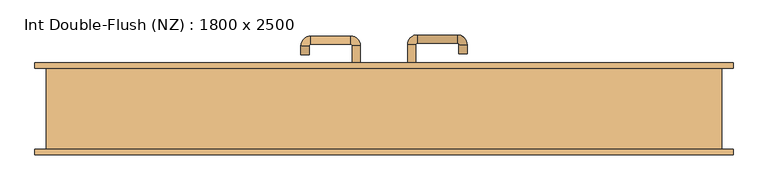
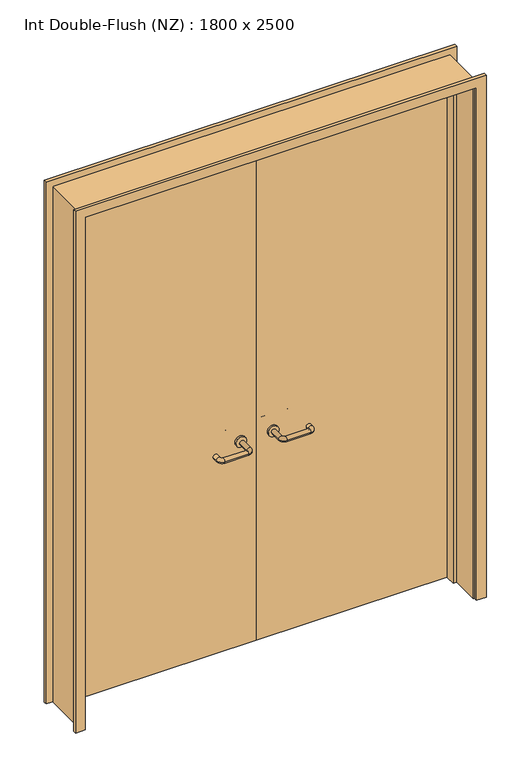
"""IFC4 building model written with IfcOpenShell, lengths in millimetres: door geometry, Int Double-Flush (NZ) : 1800 x 2500."""

from ifc_helpers import new_model, si_unit, point, frame, frame_2d, origin, place, context, project, spatial, polyline, circle_curve, ellipse_curve, trimmed, segment, composite_curve, outline, extrude, faceted_brep, source, transform, mapped, element, save
from ifc_brep_helpers import plane_surface, cylinder_surface, revolved_surface, advanced_brep


def int_double_flush_nz_1800_x_2500_136b044d(model_context):
    return source(origin(), model_context, "Body", "SolidModel", [
        extrude(outline(polyline([(2519.0, -919.0), (0.0, -919.0), (0.0, -900.0), (2500.0, -900.0), (2500.0, 900.0), (0.0, 900.0), (0.0, 919.0), (2519.0, 919.0), (2519.0, -919.0)])), frame((0.0, -110.0, 0.0), z_axis=(0.0, 1.0, 0.0), x_axis=(0.0, 0.0, 1.0)), (0.0, 0.0, 1.0), 220.0),
        faceted_brep([(-883.2857143, 69.0, 0.0), (-883.2857143, 24.0, 0.0), (-900.0, 24.0, 0.0), (-900.0, 69.0, 0.0), (-883.2857143, 69.0, 2483.2857143), (-883.2857143, 24.0, 2483.2857143), (-900.0, 24.0, 2500.0), (-900.0, 69.0, 2500.0), (883.2857143, 69.0, 0.0), (900.0, 69.0, 0.0), (900.0, 24.0, 0.0), (883.2857143, 24.0, 0.0), (883.2857143, 69.0, 2483.2857143), (900.0, 69.0, 2500.0), (900.0, 24.0, 2500.0), (883.2857143, 24.0, 2483.2857143)], [[[0, 1, 2, 3]], [[1, 0, 4, 5]], [[2, 1, 5, 6]], [[3, 2, 6, 7]], [[0, 3, 7, 4]], [[8, 9, 10, 11]], [[12, 13, 9, 8]], [[13, 14, 10, 9]], [[14, 15, 11, 10]], [[15, 12, 8, 11]], [[5, 4, 12, 15]], [[6, 5, 15, 14]], [[7, 6, 14, 13]], [[4, 7, 13, 12]]]),
        extrude(outline(polyline([(2550.0, 950.0), (2550.0, -950.0), (0.0, -950.0), (0.0, -905.0), (2505.0, -905.0), (2505.0, 905.0), (0.0, 905.0), (0.0, 950.0), (2550.0, 950.0)])), frame((0.0, 110.0, 0.0), z_axis=(0.0, 1.0, 0.0), x_axis=(0.0, 0.0, 1.0)), (0.0, 0.0, 1.0), 15.0),
        extrude(outline(polyline([(2550.0, -950.0), (0.0, -950.0), (0.0, -905.0), (2505.0, -905.0), (2505.0, 905.0), (0.0, 905.0), (0.0, 950.0), (2550.0, 950.0), (2550.0, -950.0)])), frame((0.0, -125.0, 0.0), z_axis=(0.0, 1.0, 0.0), x_axis=(0.0, 0.0, 1.0)), (0.0, 0.0, 1.0), 15.0),
        extrude(outline(polyline([(-0.9250294, 72.0), (-897.0, 72.0), (-897.0, 110.0), (-0.9250294, 110.0), (-0.9250294, 72.0)])), frame((0.0, 0.0, 1.753223), z_axis=(0.0, 0.0, 1.0), x_axis=(1.0, 0.0, 0.0)), (0.0, 0.0, 1.0), 2495.246777),
        extrude(outline(polyline([(897.0, 72.0), (-0.9250294, 72.0), (-0.9250294, 110.0), (897.0, 110.0), (897.0, 72.0)])), frame((0.0, 0.0, 1.753223), z_axis=(0.0, 0.0, 1.0), x_axis=(1.0, 0.0, 0.0)), (0.0, 0.0, 1.0), 2495.246777),
        extrude(outline(polyline([(2519.0, -919.0), (0.0, -919.0), (0.0, -900.0), (2500.0, -900.0), (2500.0, 900.0), (0.0, 900.0), (0.0, 919.0), (2519.0, 919.0), (2519.0, -919.0)])), frame((0.0, -110.0, 0.0), z_axis=(0.0, 1.0, 0.0), x_axis=(0.0, 0.0, 1.0)), (0.0, 0.0, 1.0), 220.0),
        advanced_brep(
        [(64.0, 62.0, 1003.0), (86.0, 62.0, 1003.0), (64.0, 6.6474631, 1003.0), (86.0, 6.6474631, 1003.0), (90.0, 2.6474631, 1003.0), (90.0, -19.3525369, 1003.0), (200.0, -19.3525369, 1003.0), (200.0, 2.6474631, 1003.0), (204.0, 6.6474631, 1003.0), (226.0, 6.6474631, 1003.0), (226.0, 24.0, 1003.0), (204.0, 24.0, 1003.0)],
        [
            (0, 1, circle_curve(frame((75.0, 62.0, 1003.0), z_axis=(0.0, 1.0, 0.0), x_axis=(1.0, 0.0, 0.0)), 11.0)),
            (1, 0, circle_curve(frame((75.0, 62.0, 1003.0), z_axis=(0.0, 1.0, 0.0), x_axis=(1.0, 0.0, 0.0)), 11.0)),
            (0, 2),
            (2, 3, circle_curve(frame((75.0, 6.6474631, 1003.0), z_axis=(0.0, 1.0, 0.0), x_axis=(1.0, 0.0, 0.0)), 11.0)),
            (3, 1),
            (3, 2, circle_curve(frame((75.0, 6.6474631, 1003.0), z_axis=(0.0, 1.0, 0.0), x_axis=(1.0, 0.0, 0.0)), 11.0)),
            (4, 3, circle_curve(frame((90.0, 6.6474631, 1003.0), z_axis=(0.0, 0.0, -1.0), x_axis=(-1.0, 0.0, 0.0)), 4.0)),
            (2, 5, circle_curve(frame((90.0, 6.6474631, 1003.0), z_axis=(0.0, 0.0, 1.0), x_axis=(-1.0, 0.0, 0.0)), 26.0)),
            (5, 4, circle_curve(frame((90.0, -8.3525369, 1003.0), z_axis=(-1.0, 0.0, 0.0), x_axis=(0.0, 1.0, 0.0)), 11.0)),
            (4, 5, circle_curve(frame((90.0, -8.3525369, 1003.0), z_axis=(-1.0, 0.0, 0.0), x_axis=(0.0, 1.0, 0.0)), 11.0)),
            (5, 6),
            (6, 7, circle_curve(frame((200.0, -8.3525369, 1003.0), z_axis=(-1.0, 0.0, 0.0), x_axis=(0.0, 1.0, 0.0)), 11.0)),
            (7, 4),
            (7, 6, circle_curve(frame((200.0, -8.3525369, 1003.0), z_axis=(-1.0, 0.0, 0.0), x_axis=(0.0, 1.0, 0.0)), 11.0)),
            (8, 7, circle_curve(frame((200.0, 6.6474631, 1003.0), z_axis=(0.0, 0.0, -1.0), x_axis=(0.0, -1.0, 0.0)), 4.0)),
            (6, 9, circle_curve(frame((200.0, 6.6474631, 1003.0), z_axis=(0.0, 0.0, 1.0), x_axis=(0.0, -1.0, 0.0)), 26.0)),
            (9, 8, circle_curve(frame((215.0, 6.6474631, 1003.0), z_axis=(0.0, -1.0, 0.0), x_axis=(-1.0, 0.0, 0.0)), 11.0)),
            (8, 9, circle_curve(frame((215.0, 6.6474631, 1003.0), z_axis=(0.0, -1.0, 0.0), x_axis=(-1.0, 0.0, 0.0)), 11.0)),
            (10, 11, circle_curve(frame((215.0, 24.0, 1003.0), z_axis=(0.0, 1.0, 0.0), x_axis=(-1.0, 0.0, 0.0)), 11.0)),
            (11, 10, circle_curve(frame((215.0, 24.0, 1003.0), z_axis=(0.0, 1.0, 0.0), x_axis=(-1.0, 0.0, 0.0)), 11.0)),
            (9, 10),
            (11, 8),
        ],
        [
            plane_surface(frame((64.0, 62.0, 1003.0), z_axis=(0.0, 1.0, 0.0), x_axis=(0.0, 0.0, -1.0))),
            cylinder_surface(frame((75.0, 62.0, 1003.0), z_axis=(0.0, 1.0, 0.0), x_axis=(1.0, 0.0, 0.0)), 11.0),
            revolved_surface(trimmed(ellipse_curve(frame((75.0, 6.6474631, 1003.0), z_axis=(0.0, 1.0, 0.0), x_axis=(1.0, 0.0, 0.0)), 11.0, 11.0), [point((64.0, 6.6474631, 1003.0))], [point((86.0, 6.6474631, 1003.0))], True, "CARTESIAN"), (90.0, 6.6474631, 1003.0), (0.0, 0.0, 1.0)),
            revolved_surface(trimmed(ellipse_curve(frame((75.0, 6.6474631, 1003.0), z_axis=(0.0, 1.0, 0.0), x_axis=(1.0, 0.0, 0.0)), 11.0, 11.0), [point((86.0, 6.6474631, 1003.0))], [point((64.0, 6.6474631, 1003.0))], True, "CARTESIAN"), (90.0, 6.6474631, 1003.0), (0.0, 0.0, 1.0)),
            cylinder_surface(frame((90.0, -8.3525369, 1003.0), z_axis=(-1.0, 0.0, 0.0), x_axis=(0.0, 1.0, 0.0)), 11.0),
            revolved_surface(trimmed(ellipse_curve(frame((200.0, -8.3525369, 1003.0), z_axis=(-1.0, 0.0, 0.0), x_axis=(0.0, 1.0, 0.0)), 11.0, 11.0), [point((200.0, -19.3525369, 1003.0))], [point((200.0, 2.6474631, 1003.0))], True, "CARTESIAN"), (200.0, 6.6474631, 1003.0), (0.0, 0.0, 1.0)),
            revolved_surface(trimmed(ellipse_curve(frame((200.0, -8.3525369, 1003.0), z_axis=(-1.0, 0.0, 0.0), x_axis=(0.0, 1.0, 0.0)), 11.0, 11.0), [point((200.0, 2.6474631, 1003.0))], [point((200.0, -19.3525369, 1003.0))], True, "CARTESIAN"), (200.0, 6.6474631, 1003.0), (0.0, 0.0, 1.0)),
            plane_surface(frame((204.0, 24.0, 1003.0), z_axis=(0.0, 1.0, 0.0), x_axis=(0.0, 0.0, 1.0))),
            cylinder_surface(frame((215.0, 6.6474631, 1003.0), z_axis=(0.0, -1.0, 0.0), x_axis=(-1.0, 0.0, 0.0)), 11.0),
        ],
        [
            (0, [[1, 2]]),
            (1, [[-1, 3, 4, 5]]),
            (1, [[-2, -5, 6, -3]]),
            (2, [[7, -4, 8, 9]]),
            (3, [[-8, -6, -7, 10]]),
            (4, [[-9, 11, 12, 13]]),
            (4, [[-10, -13, 14, -11]]),
            (5, [[15, -12, 16, 17]]),
            (6, [[-16, -14, -15, 18]]),
            (7, [[19, 20]]),
            (8, [[-17, 21, -20, 22]]),
            (8, [[-18, -22, -19, -21]]),
        ],
    ),
        extrude(outline(composite_curve([segment(trimmed(circle_curve(frame_2d((1003.0, 75.0)), 25.0), [point((1003.0, 50.0))], [point((1003.0, 100.0))], False, "CARTESIAN"), True, "CONTINUOUS"), segment(trimmed(circle_curve(frame_2d((1003.0, 75.0)), 25.0), [point((1003.0, 100.0))], [point((1003.0, 50.0))], False, "CARTESIAN"), True, "CONTINUOUS")], self_intersect=False)), frame((0.0, 62.0, 0.0), z_axis=(0.0, 1.0, 0.0), x_axis=(0.0, 0.0, 1.0)), (0.0, 0.0, 1.0), 10.0),
        advanced_brep(
        [(86.0, 120.0, 1003.0), (64.0, 120.0, 1003.0), (86.0, 175.0, 1003.0), (64.0, 175.0, 1003.0), (90.0, 201.0, 1003.0), (90.0, 179.0, 1003.0), (200.0, 179.0, 1003.0), (200.0, 201.0, 1003.0), (226.0, 175.0, 1003.0), (204.0, 175.0, 1003.0), (204.0, 150.0, 1003.0), (226.0, 150.0, 1003.0)],
        [
            (0, 1, circle_curve(frame((75.0, 120.0, 1003.0), z_axis=(0.0, -1.0, 0.0), x_axis=(-1.0, 0.0, 0.0)), 11.0)),
            (1, 0, circle_curve(frame((75.0, 120.0, 1003.0), z_axis=(0.0, -1.0, 0.0), x_axis=(-1.0, 0.0, 0.0)), 11.0)),
            (0, 2),
            (2, 3, circle_curve(frame((75.0, 175.0, 1003.0), z_axis=(0.0, -1.0, 0.0), x_axis=(-1.0, 0.0, 0.0)), 11.0)),
            (3, 1),
            (3, 2, circle_curve(frame((75.0, 175.0, 1003.0), z_axis=(0.0, -1.0, 0.0), x_axis=(-1.0, 0.0, 0.0)), 11.0)),
            (4, 3, circle_curve(frame((90.0, 175.0, 1003.0), z_axis=(0.0, 0.0, 1.0), x_axis=(-1.0, 0.0, 0.0)), 26.0)),
            (2, 5, circle_curve(frame((90.0, 175.0, 1003.0), z_axis=(0.0, 0.0, -1.0), x_axis=(-1.0, 0.0, 0.0)), 4.0)),
            (5, 4, circle_curve(frame((90.0, 190.0, 1003.0), z_axis=(-1.0, 0.0, 0.0), x_axis=(0.0, 1.0, 0.0)), 11.0)),
            (4, 5, circle_curve(frame((90.0, 190.0, 1003.0), z_axis=(-1.0, 0.0, 0.0), x_axis=(0.0, 1.0, 0.0)), 11.0)),
            (5, 6),
            (6, 7, circle_curve(frame((200.0, 190.0, 1003.0), z_axis=(-1.0, 0.0, 0.0), x_axis=(0.0, 1.0, 0.0)), 11.0)),
            (7, 4),
            (7, 6, circle_curve(frame((200.0, 190.0, 1003.0), z_axis=(-1.0, 0.0, 0.0), x_axis=(0.0, 1.0, 0.0)), 11.0)),
            (8, 7, circle_curve(frame((200.0, 175.0, 1003.0), z_axis=(0.0, 0.0, 1.0), x_axis=(0.0, 1.0, 0.0)), 26.0)),
            (6, 9, circle_curve(frame((200.0, 175.0, 1003.0), z_axis=(0.0, 0.0, -1.0), x_axis=(0.0, 1.0, 0.0)), 4.0)),
            (9, 8, circle_curve(frame((215.0, 175.0, 1003.0), z_axis=(0.0, 1.0, 0.0), x_axis=(1.0, 0.0, 0.0)), 11.0)),
            (8, 9, circle_curve(frame((215.0, 175.0, 1003.0), z_axis=(0.0, 1.0, 0.0), x_axis=(1.0, 0.0, 0.0)), 11.0)),
            (10, 11, circle_curve(frame((215.0, 150.0, 1003.0), z_axis=(0.0, -1.0, 0.0), x_axis=(1.0, 0.0, 0.0)), 11.0)),
            (11, 10, circle_curve(frame((215.0, 150.0, 1003.0), z_axis=(0.0, -1.0, 0.0), x_axis=(1.0, 0.0, 0.0)), 11.0)),
            (9, 10),
            (11, 8),
        ],
        [
            plane_surface(frame((64.0, 120.0, 1003.0), z_axis=(0.0, -1.0, 0.0), x_axis=(0.0, 0.0, 1.0))),
            cylinder_surface(frame((75.0, 120.0, 1003.0), z_axis=(0.0, -1.0, 0.0), x_axis=(-1.0, 0.0, 0.0)), 11.0),
            revolved_surface(trimmed(ellipse_curve(frame((75.0, 175.0, 1003.0), z_axis=(0.0, -1.0, 0.0), x_axis=(-1.0, 0.0, 0.0)), 11.0, 11.0), [point((86.0, 175.0, 1003.0))], [point((64.0, 175.0, 1003.0))], True, "CARTESIAN"), (90.0, 175.0, 1003.0), (0.0, 0.0, -1.0)),
            revolved_surface(trimmed(ellipse_curve(frame((75.0, 175.0, 1003.0), z_axis=(0.0, -1.0, 0.0), x_axis=(-1.0, 0.0, 0.0)), 11.0, 11.0), [point((64.0, 175.0, 1003.0))], [point((86.0, 175.0, 1003.0))], True, "CARTESIAN"), (90.0, 175.0, 1003.0), (0.0, 0.0, -1.0)),
            cylinder_surface(frame((90.0, 190.0, 1003.0), z_axis=(-1.0, 0.0, 0.0), x_axis=(0.0, 1.0, 0.0)), 11.0),
            revolved_surface(trimmed(ellipse_curve(frame((200.0, 190.0, 1003.0), z_axis=(-1.0, 0.0, 0.0), x_axis=(0.0, 1.0, 0.0)), 11.0, 11.0), [point((200.0, 179.0, 1003.0))], [point((200.0, 201.0, 1003.0))], True, "CARTESIAN"), (200.0, 175.0, 1003.0), (0.0, 0.0, -1.0)),
            revolved_surface(trimmed(ellipse_curve(frame((200.0, 190.0, 1003.0), z_axis=(-1.0, 0.0, 0.0), x_axis=(0.0, 1.0, 0.0)), 11.0, 11.0), [point((200.0, 201.0, 1003.0))], [point((200.0, 179.0, 1003.0))], True, "CARTESIAN"), (200.0, 175.0, 1003.0), (0.0, 0.0, -1.0)),
            plane_surface(frame((204.0, 150.0, 1003.0), z_axis=(0.0, -1.0, 0.0), x_axis=(0.0, 0.0, -1.0))),
            cylinder_surface(frame((215.0, 175.0, 1003.0), z_axis=(0.0, 1.0, 0.0), x_axis=(1.0, 0.0, 0.0)), 11.0),
        ],
        [
            (0, [[1, 2]]),
            (1, [[-1, 3, 4, 5]]),
            (1, [[-2, -5, 6, -3]]),
            (2, [[7, -4, 8, 9]]),
            (3, [[-8, -6, -7, 10]]),
            (4, [[-9, 11, 12, 13]]),
            (4, [[-10, -13, 14, -11]]),
            (5, [[15, -12, 16, 17]]),
            (6, [[-16, -14, -15, 18]]),
            (7, [[19, 20]]),
            (8, [[-17, 21, -20, 22]]),
            (8, [[-18, -22, -19, -21]]),
        ],
    ),
        extrude(outline(composite_curve([segment(trimmed(circle_curve(frame_2d((1003.0, 75.0)), 25.0), [point((1003.0, 100.0))], [point((1003.0, 50.0))], False, "CARTESIAN"), True, "CONTINUOUS"), segment(trimmed(circle_curve(frame_2d((1003.0, 75.0)), 25.0), [point((1003.0, 50.0))], [point((1003.0, 100.0))], False, "CARTESIAN"), True, "CONTINUOUS")], self_intersect=False)), frame((0.0, 110.0, 0.0), z_axis=(0.0, 1.0, 0.0), x_axis=(0.0, 0.0, 1.0)), (0.0, 0.0, 1.0), 10.0),
        advanced_brep(
        [(-86.0, 55.6886121, 1003.0), (-64.0, 55.6886121, 1003.0), (-86.0, 0.2779553, 1003.0), (-64.0, 0.2779553, 1003.0), (-90.0, -25.7220447, 1003.0), (-90.0, -3.7220447, 1003.0), (-200.0, -3.7220447, 1003.0), (-200.0, -25.7220447, 1003.0), (-226.0, 0.2779553, 1003.0), (-204.0, 0.2779553, 1003.0), (-204.0, 25.2779553, 1003.0), (-226.0, 25.2779553, 1003.0)],
        [
            (0, 1, circle_curve(frame((-75.0, 55.6886121, 1003.0), z_axis=(0.0, 1.0, 0.0), x_axis=(1.0, 0.0, 0.0)), 11.0)),
            (1, 0, circle_curve(frame((-75.0, 55.6886121, 1003.0), z_axis=(0.0, 1.0, 0.0), x_axis=(1.0, 0.0, 0.0)), 11.0)),
            (0, 2),
            (2, 3, circle_curve(frame((-75.0, 0.2779553, 1003.0), z_axis=(0.0, 1.0, 0.0), x_axis=(1.0, 0.0, 0.0)), 11.0)),
            (3, 1),
            (3, 2, circle_curve(frame((-75.0, 0.2779553, 1003.0), z_axis=(0.0, 1.0, 0.0), x_axis=(1.0, 0.0, 0.0)), 11.0)),
            (4, 3, circle_curve(frame((-90.0, 0.2779553, 1003.0), z_axis=(0.0, 0.0, 1.0), x_axis=(1.0, 0.0, 0.0)), 26.0)),
            (2, 5, circle_curve(frame((-90.0, 0.2779553, 1003.0), z_axis=(0.0, 0.0, -1.0), x_axis=(1.0, 0.0, 0.0)), 4.0)),
            (5, 4, circle_curve(frame((-90.0, -14.7220447, 1003.0), z_axis=(1.0, 0.0, 0.0), x_axis=(0.0, -1.0, 0.0)), 11.0)),
            (4, 5, circle_curve(frame((-90.0, -14.7220447, 1003.0), z_axis=(1.0, 0.0, 0.0), x_axis=(0.0, -1.0, 0.0)), 11.0)),
            (5, 6),
            (6, 7, circle_curve(frame((-200.0, -14.7220447, 1003.0), z_axis=(1.0, 0.0, 0.0), x_axis=(0.0, -1.0, 0.0)), 11.0)),
            (7, 4),
            (7, 6, circle_curve(frame((-200.0, -14.7220447, 1003.0), z_axis=(1.0, 0.0, 0.0), x_axis=(0.0, -1.0, 0.0)), 11.0)),
            (8, 7, circle_curve(frame((-200.0, 0.2779553, 1003.0), z_axis=(0.0, 0.0, 1.0), x_axis=(0.0, -1.0, 0.0)), 26.0)),
            (6, 9, circle_curve(frame((-200.0, 0.2779553, 1003.0), z_axis=(0.0, 0.0, -1.0), x_axis=(0.0, -1.0, 0.0)), 4.0)),
            (9, 8, circle_curve(frame((-215.0, 0.2779553, 1003.0), z_axis=(0.0, -1.0, 0.0), x_axis=(-1.0, 0.0, 0.0)), 11.0)),
            (8, 9, circle_curve(frame((-215.0, 0.2779553, 1003.0), z_axis=(0.0, -1.0, 0.0), x_axis=(-1.0, 0.0, 0.0)), 11.0)),
            (10, 11, circle_curve(frame((-215.0, 25.2779553, 1003.0), z_axis=(0.0, 1.0, 0.0), x_axis=(-1.0, 0.0, 0.0)), 11.0)),
            (11, 10, circle_curve(frame((-215.0, 25.2779553, 1003.0), z_axis=(0.0, 1.0, 0.0), x_axis=(-1.0, 0.0, 0.0)), 11.0)),
            (9, 10),
            (11, 8),
        ],
        [
            plane_surface(frame((-86.0, 55.6886121, 1003.0), z_axis=(0.0, 1.0, 0.0), x_axis=(0.0, 0.0, -1.0))),
            cylinder_surface(frame((-75.0, 55.6886121, 1003.0), z_axis=(0.0, 1.0, 0.0), x_axis=(1.0, 0.0, 0.0)), 11.0),
            revolved_surface(trimmed(ellipse_curve(frame((-75.0, 0.2779553, 1003.0), z_axis=(0.0, 1.0, 0.0), x_axis=(1.0, 0.0, 0.0)), 11.0, 11.0), [point((-86.0, 0.2779553, 1003.0))], [point((-64.0, 0.2779553, 1003.0))], True, "CARTESIAN"), (-90.0, 0.2779553, 1003.0), (0.0, 0.0, -1.0)),
            revolved_surface(trimmed(ellipse_curve(frame((-75.0, 0.2779553, 1003.0), z_axis=(0.0, 1.0, 0.0), x_axis=(1.0, 0.0, 0.0)), 11.0, 11.0), [point((-64.0, 0.2779553, 1003.0))], [point((-86.0, 0.2779553, 1003.0))], True, "CARTESIAN"), (-90.0, 0.2779553, 1003.0), (0.0, 0.0, -1.0)),
            cylinder_surface(frame((-90.0, -14.7220447, 1003.0), z_axis=(1.0, 0.0, 0.0), x_axis=(0.0, -1.0, 0.0)), 11.0),
            revolved_surface(trimmed(ellipse_curve(frame((-200.0, -14.7220447, 1003.0), z_axis=(1.0, 0.0, 0.0), x_axis=(0.0, -1.0, 0.0)), 11.0, 11.0), [point((-200.0, -3.7220447, 1003.0))], [point((-200.0, -25.7220447, 1003.0))], True, "CARTESIAN"), (-200.0, 0.2779553, 1003.0), (0.0, 0.0, -1.0)),
            revolved_surface(trimmed(ellipse_curve(frame((-200.0, -14.7220447, 1003.0), z_axis=(1.0, 0.0, 0.0), x_axis=(0.0, -1.0, 0.0)), 11.0, 11.0), [point((-200.0, -25.7220447, 1003.0))], [point((-200.0, -3.7220447, 1003.0))], True, "CARTESIAN"), (-200.0, 0.2779553, 1003.0), (0.0, 0.0, -1.0)),
            plane_surface(frame((-226.0, 25.2779553, 1003.0), z_axis=(0.0, 1.0, 0.0), x_axis=(0.0, 0.0, 1.0))),
            cylinder_surface(frame((-215.0, 0.2779553, 1003.0), z_axis=(0.0, -1.0, 0.0), x_axis=(-1.0, 0.0, 0.0)), 11.0),
        ],
        [
            (0, [[1, 2]]),
            (1, [[-1, 3, 4, 5]]),
            (1, [[-2, -5, 6, -3]]),
            (2, [[7, -4, 8, 9]]),
            (3, [[-8, -6, -7, 10]]),
            (4, [[-9, 11, 12, 13]]),
            (4, [[-10, -13, 14, -11]]),
            (5, [[15, -12, 16, 17]]),
            (6, [[-16, -14, -15, 18]]),
            (7, [[19, 20]]),
            (8, [[-17, 21, -20, 22]]),
            (8, [[-18, -22, -19, -21]]),
        ],
    ),
        extrude(outline(composite_curve([segment(trimmed(circle_curve(frame_2d((1003.0, -75.0)), 25.0), [point((1003.0, -100.0))], [point((1003.0, -50.0))], False, "CARTESIAN"), True, "CONTINUOUS"), segment(trimmed(circle_curve(frame_2d((1003.0, -75.0)), 25.0), [point((1003.0, -50.0))], [point((1003.0, -100.0))], False, "CARTESIAN"), True, "CONTINUOUS")], self_intersect=False)), frame((0.0, 61.6886121, 0.0), z_axis=(0.0, 1.0, 0.0), x_axis=(0.0, 0.0, 1.0)), (0.0, 0.0, 1.0), 10.3113879),
        advanced_brep(
        [(-64.0, 116.5143417, 1003.0), (-86.0, 116.5143417, 1003.0), (-64.0, 171.6104656, 1003.0), (-86.0, 171.6104656, 1003.0), (-90.0, 175.6104656, 1003.0), (-90.0, 197.6104656, 1003.0), (-200.0, 197.6104656, 1003.0), (-200.0, 175.6104656, 1003.0), (-204.0, 171.6104656, 1003.0), (-226.0, 171.6104656, 1003.0), (-226.0, 146.6104656, 1003.0), (-204.0, 146.6104656, 1003.0)],
        [
            (0, 1, circle_curve(frame((-75.0, 116.5143417, 1003.0), z_axis=(0.0, -1.0, 0.0), x_axis=(-1.0, 0.0, 0.0)), 11.0)),
            (1, 0, circle_curve(frame((-75.0, 116.5143417, 1003.0), z_axis=(0.0, -1.0, 0.0), x_axis=(-1.0, 0.0, 0.0)), 11.0)),
            (0, 2),
            (2, 3, circle_curve(frame((-75.0, 171.6104656, 1003.0), z_axis=(0.0, -1.0, 0.0), x_axis=(-1.0, 0.0, 0.0)), 11.0)),
            (3, 1),
            (3, 2, circle_curve(frame((-75.0, 171.6104656, 1003.0), z_axis=(0.0, -1.0, 0.0), x_axis=(-1.0, 0.0, 0.0)), 11.0)),
            (4, 3, circle_curve(frame((-90.0, 171.6104656, 1003.0), z_axis=(0.0, 0.0, -1.0), x_axis=(1.0, 0.0, 0.0)), 4.0)),
            (2, 5, circle_curve(frame((-90.0, 171.6104656, 1003.0), z_axis=(0.0, 0.0, 1.0), x_axis=(1.0, 0.0, 0.0)), 26.0)),
            (5, 4, circle_curve(frame((-90.0, 186.6104656, 1003.0), z_axis=(1.0, 0.0, 0.0), x_axis=(0.0, -1.0, 0.0)), 11.0)),
            (4, 5, circle_curve(frame((-90.0, 186.6104656, 1003.0), z_axis=(1.0, 0.0, 0.0), x_axis=(0.0, -1.0, 0.0)), 11.0)),
            (5, 6),
            (6, 7, circle_curve(frame((-200.0, 186.6104656, 1003.0), z_axis=(1.0, 0.0, 0.0), x_axis=(0.0, -1.0, 0.0)), 11.0)),
            (7, 4),
            (7, 6, circle_curve(frame((-200.0, 186.6104656, 1003.0), z_axis=(1.0, 0.0, 0.0), x_axis=(0.0, -1.0, 0.0)), 11.0)),
            (8, 7, circle_curve(frame((-200.0, 171.6104656, 1003.0), z_axis=(0.0, 0.0, -1.0), x_axis=(0.0, 1.0, 0.0)), 4.0)),
            (6, 9, circle_curve(frame((-200.0, 171.6104656, 1003.0), z_axis=(0.0, 0.0, 1.0), x_axis=(0.0, 1.0, 0.0)), 26.0)),
            (9, 8, circle_curve(frame((-215.0, 171.6104656, 1003.0), z_axis=(0.0, 1.0, 0.0), x_axis=(1.0, 0.0, 0.0)), 11.0)),
            (8, 9, circle_curve(frame((-215.0, 171.6104656, 1003.0), z_axis=(0.0, 1.0, 0.0), x_axis=(1.0, 0.0, 0.0)), 11.0)),
            (10, 11, circle_curve(frame((-215.0, 146.6104656, 1003.0), z_axis=(0.0, -1.0, 0.0), x_axis=(1.0, 0.0, 0.0)), 11.0)),
            (11, 10, circle_curve(frame((-215.0, 146.6104656, 1003.0), z_axis=(0.0, -1.0, 0.0), x_axis=(1.0, 0.0, 0.0)), 11.0)),
            (9, 10),
            (11, 8),
        ],
        [
            plane_surface(frame((-86.0, 116.5143417, 1003.0), z_axis=(0.0, -1.0, 0.0), x_axis=(0.0, 0.0, 1.0))),
            cylinder_surface(frame((-75.0, 116.5143417, 1003.0), z_axis=(0.0, -1.0, 0.0), x_axis=(-1.0, 0.0, 0.0)), 11.0),
            revolved_surface(trimmed(ellipse_curve(frame((-75.0, 171.6104656, 1003.0), z_axis=(0.0, -1.0, 0.0), x_axis=(-1.0, 0.0, 0.0)), 11.0, 11.0), [point((-64.0, 171.6104656, 1003.0))], [point((-86.0, 171.6104656, 1003.0))], True, "CARTESIAN"), (-90.0, 171.6104656, 1003.0), (0.0, 0.0, 1.0)),
            revolved_surface(trimmed(ellipse_curve(frame((-75.0, 171.6104656, 1003.0), z_axis=(0.0, -1.0, 0.0), x_axis=(-1.0, 0.0, 0.0)), 11.0, 11.0), [point((-86.0, 171.6104656, 1003.0))], [point((-64.0, 171.6104656, 1003.0))], True, "CARTESIAN"), (-90.0, 171.6104656, 1003.0), (0.0, 0.0, 1.0)),
            cylinder_surface(frame((-90.0, 186.6104656, 1003.0), z_axis=(1.0, 0.0, 0.0), x_axis=(0.0, -1.0, 0.0)), 11.0),
            revolved_surface(trimmed(ellipse_curve(frame((-200.0, 186.6104656, 1003.0), z_axis=(1.0, 0.0, 0.0), x_axis=(0.0, -1.0, 0.0)), 11.0, 11.0), [point((-200.0, 197.6104656, 1003.0))], [point((-200.0, 175.6104656, 1003.0))], True, "CARTESIAN"), (-200.0, 171.6104656, 1003.0), (0.0, 0.0, 1.0)),
            revolved_surface(trimmed(ellipse_curve(frame((-200.0, 186.6104656, 1003.0), z_axis=(1.0, 0.0, 0.0), x_axis=(0.0, -1.0, 0.0)), 11.0, 11.0), [point((-200.0, 175.6104656, 1003.0))], [point((-200.0, 197.6104656, 1003.0))], True, "CARTESIAN"), (-200.0, 171.6104656, 1003.0), (0.0, 0.0, 1.0)),
            plane_surface(frame((-226.0, 146.6104656, 1003.0), z_axis=(0.0, -1.0, 0.0), x_axis=(0.0, 0.0, -1.0))),
            cylinder_surface(frame((-215.0, 171.6104656, 1003.0), z_axis=(0.0, 1.0, 0.0), x_axis=(1.0, 0.0, 0.0)), 11.0),
        ],
        [
            (0, [[1, 2]]),
            (1, [[-1, 3, 4, 5]]),
            (1, [[-2, -5, 6, -3]]),
            (2, [[7, -4, 8, 9]]),
            (3, [[-8, -6, -7, 10]]),
            (4, [[-9, 11, 12, 13]]),
            (4, [[-10, -13, 14, -11]]),
            (5, [[15, -12, 16, 17]]),
            (6, [[-16, -14, -15, 18]]),
            (7, [[19, 20]]),
            (8, [[-17, 21, -20, 22]]),
            (8, [[-18, -22, -19, -21]]),
        ],
    ),
        extrude(outline(composite_curve([segment(trimmed(circle_curve(frame_2d((1003.0, -75.0)), 25.0), [point((1003.0, -50.0))], [point((1003.0, -100.0))], False, "CARTESIAN"), True, "CONTINUOUS"), segment(trimmed(circle_curve(frame_2d((1003.0, -75.0)), 25.0), [point((1003.0, -100.0))], [point((1003.0, -50.0))], False, "CARTESIAN"), True, "CONTINUOUS")], self_intersect=False)), frame((0.0, 110.0, 0.0), z_axis=(0.0, 1.0, 0.0), x_axis=(0.0, 0.0, 1.0)), (0.0, 0.0, 1.0), 9.5143417),
    ])


if __name__ == "__main__":
    model = new_model("IFC4")
    model_context = context("Model", 3, world=origin())
    ifc_project = project(units=[si_unit("LENGTHUNIT", "METRE", prefix="MILLI")], contexts=[model_context])
    site = spatial("IfcSite", under=ifc_project)
    building = spatial("IfcBuilding", under=site)
    placement = place(None, origin())
    int_double_flush_nz_1800_x_2500_shape = int_double_flush_nz_1800_x_2500_136b044d(model_context)
    element("IfcDoor", 1, ObjectType="Int Double-Flush (NZ) : 1800 x 2500", at=placement, inside=building, context=model_context, shape_type="MappedRepresentation", body=[
        mapped(int_double_flush_nz_1800_x_2500_shape, transform((0.0, 0.0, 0.0), x_axis=(1.0, 0.0, 0.0), y_axis=(0.0, 1.0, 0.0), z_axis=(0.0, 0.0, 1.0))),
    ])
    save(model, "model.ifc")
